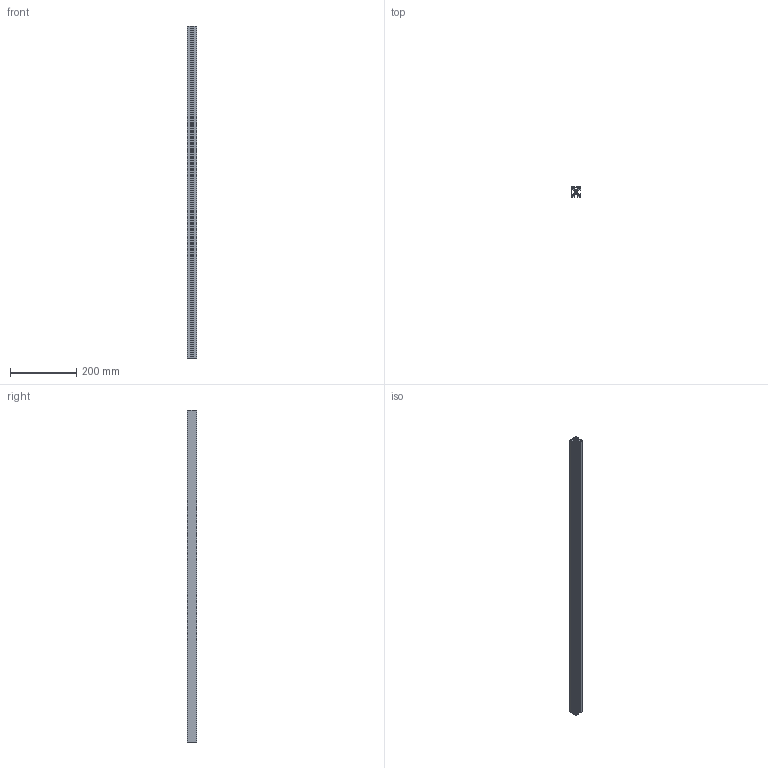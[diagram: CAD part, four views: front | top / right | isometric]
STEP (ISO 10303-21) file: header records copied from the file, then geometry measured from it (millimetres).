
FILE_DESCRIPTION (( 'STEP AP203' ), '1' );
FILE_NAME ('30X30 PROFÝLKAPALI.STEP', '2017-04-06T07:20:58', ( '' ), ( '' ), 'SwSTEP 2.0', 'SolidWorks 2016', '' );
FILE_SCHEMA (( 'CONFIG_CONTROL_DESIGN' ));
Length unit declared in the file: millimetre
Products named in the file (1): 30X30 PROFÝLKAPALI
Bounding box: 30 x 30 x 1000 mm (x, y, z)
Volume: 337475.5 mm3; surface area: 382160.2 mm2
Topology: 1 solids, 1 shells, 363 faces, 1083 edges, 722 vertices
Faces by surface type: cylinder 205, plane 158
Entity records: 12452 total; most frequent: DIRECTION 2221, CARTESIAN_POINT 2169, ORIENTED_EDGE 2166, EDGE_CURVE 1083, AXIS2_PLACEMENT_3D 774, VERTEX_POINT 722, VECTOR 673, LINE 673
